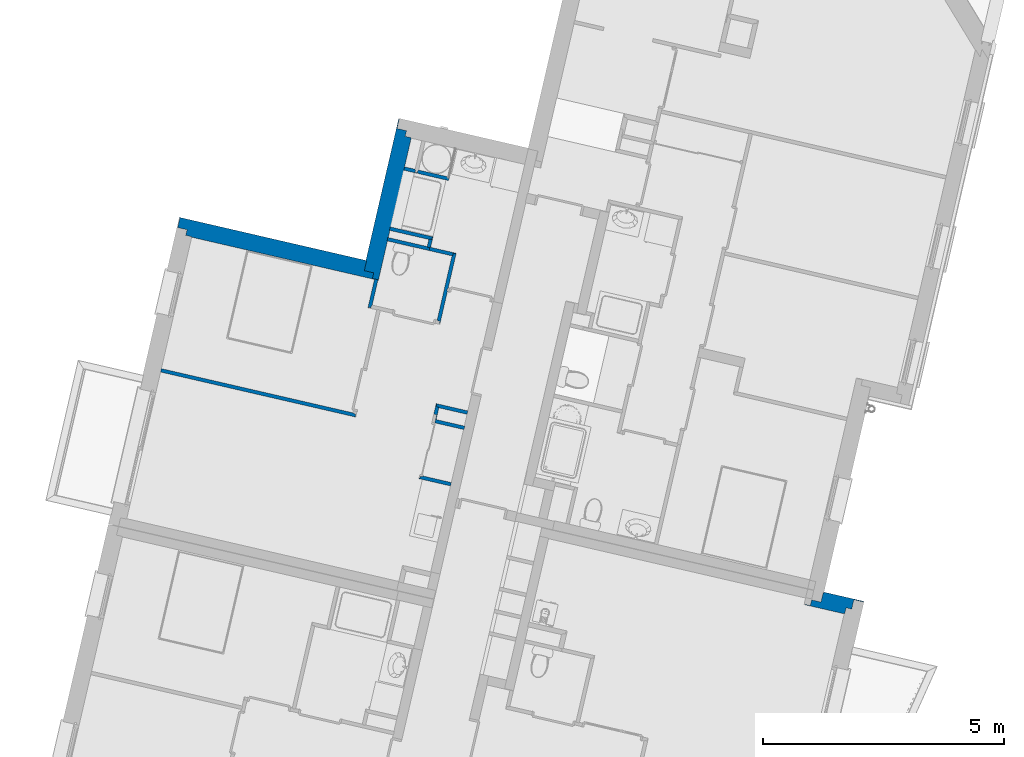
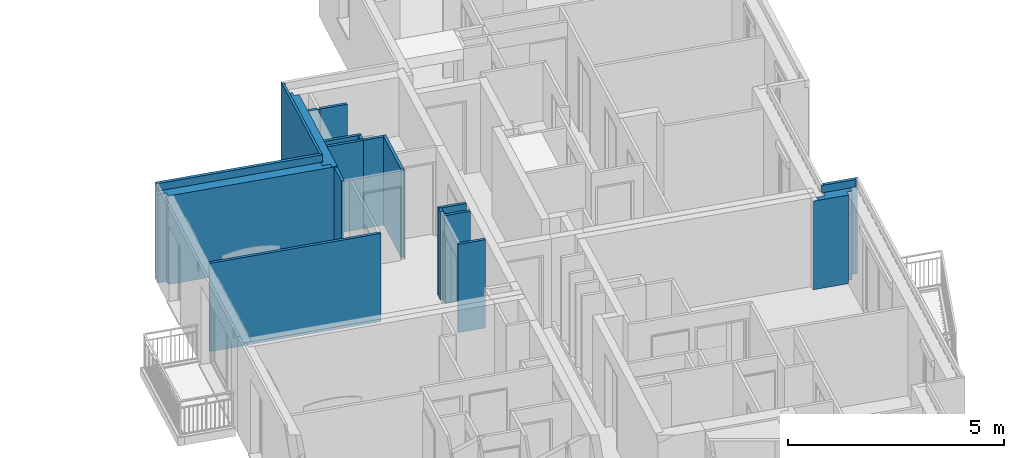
# One storey, part 46 of 91: 16 walls.
"""IFC2X3 building model written with IfcOpenShell, lengths in metres."""

from ifc_helpers import new_model, entity, si_unit, converted_unit, derived_unit, money_unit, direction, frame, origin_with_axes, place, context, subcontext, project, spatial, faceted_brep, material, material_list, type_object, element, save


model = new_model("IFC2X3")

# Units and contexts
model_context = context("Model", 3, precision=1e-05, world=origin_with_axes(), true_north=direction((0.0, 1.0)))
body_context = subcontext(model_context, "Body", "Model", "MODEL_VIEW")
ifc_project = project(units=[si_unit("LENGTHUNIT", "METRE"), si_unit("AREAUNIT", "SQUARE_METRE"), si_unit("VOLUMEUNIT", "CUBIC_METRE"), converted_unit("PLANEANGLEUNIT", "DEGREE", entity("IfcPlaneAngleMeasure", 0.0174532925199), si_unit("PLANEANGLEUNIT", "RADIAN"), dimensions=[0, 0, 0, 0, 0, 0, 0]), si_unit("SOLIDANGLEUNIT", "STERADIAN"), money_unit("EUR"), converted_unit("TIMEUNIT", "Year", entity("IfcTimeMeasure", 31556926.0), si_unit("TIMEUNIT", "SECOND"), dimensions=[0, 0, 1, 0, 0, 0, 0]), si_unit("MASSUNIT", "GRAM", prefix="KILO"), si_unit("THERMODYNAMICTEMPERATUREUNIT", "DEGREE_CELSIUS"), si_unit("LUMINOUSINTENSITYUNIT", "LUMEN"), si_unit("ENERGYUNIT", "JOULE", prefix="MEGA"), derived_unit("THERMALCONDUCTANCEUNIT", [(si_unit("POWERUNIT", "WATT"), 1), (si_unit("LENGTHUNIT", "METRE"), -1), (si_unit("THERMODYNAMICTEMPERATUREUNIT", "KELVIN"), -1)]), derived_unit("SPECIFICHEATCAPACITYUNIT", [(si_unit("ENERGYUNIT", "JOULE"), 1), (si_unit("MASSUNIT", "GRAM", prefix="KILO"), -1), (si_unit("THERMODYNAMICTEMPERATUREUNIT", "KELVIN"), -1)]), derived_unit("MASSDENSITYUNIT", [(si_unit("MASSUNIT", "GRAM", prefix="KILO"), 1), (si_unit("VOLUMEUNIT", "CUBIC_METRE"), -1)])], contexts=[model_context])

# Site, building, storey
site_placement = place(None, origin_with_axes())
site = spatial("IfcSite", under=ifc_project, at=site_placement, Name="Site", CompositionType="ELEMENT")
building_placement = place(site_placement, origin_with_axes())
building = spatial("IfcBuilding", under=site, at=building_placement, Name="Bâtiment", CompositionType="ELEMENT")
storey_placement = place(building_placement, frame((0.0, 0.0, 5.44), z_axis=(0.0, 0.0, 1.0), x_axis=(1.0, 0.0, 0.0)))
storey = spatial("IfcBuildingStorey", under=building, at=storey_placement, Name="R+2", CompositionType="ELEMENT", Elevation=5.44)

# Walls
ifc_material_1 = material(Name="Finition int - Plaque de plâtre")
ifc_material_2 = material(Name="Isolation - Polystyrène extrudé")
ifc_material_3 = material(Name="Bloc ELITHERM")
ifc_material_4 = material(Name="Isolation - Polystyrène expansé")
ifc_material_5 = material(Name="Mortier")
ifc_material_6 = material(Name="Béton cellulaire")
ifc_material_7 = material(Name="Finition ext - Crépis")
ifc_material_list_1 = material_list([ifc_material_1, ifc_material_2, ifc_material_3, ifc_material_4, ifc_material_5, ifc_material_6, ifc_material_7])
wall_type_1 = type_object("IfcWallType", Name="Mur ALKERN + planelle 21 345 x 2720", PredefinedType="USERDEFINED")
wall_1_placement = place(storey_placement, frame((-11.5686771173, 9.47242626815, 0.0), z_axis=(0.0, 0.0, 1.0), x_axis=(-0.974387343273, 0.224876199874, 0.0)))
element("IfcWall", 1, at=wall_1_placement, inside=storey, type_object=wall_type_1, material=ifc_material_list_1, Name="Mue bloc ALKERN isolé", ObjectType="SOLIDWALL", context=body_context, shape_type="Brep", body=[
    faceted_brep([(-0.335000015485, 0.335000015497, 0.0), (3.64499998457, 0.335000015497, 0.0), (3.64499998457, 0.335000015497, 2.51), (-0.335000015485, 0.335000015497, 2.51), (-0.335000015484, 0.34499998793, 0.0), (3.64499998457, 0.34499998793, 0.0), (3.64499998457, 0.34499998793, 2.51), (-0.335000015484, 0.34499998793, 2.51)], [[[0, 1, 2, 3]], [[4, 5, 1, 0]], [[5, 6, 2, 1]], [[3, 2, 6, 7]], [[4, 0, 3, 7]], [[7, 6, 5, 4]]]),
    faceted_brep([(-0.215000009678, 0.215000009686, 0.0), (3.765000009, 0.215000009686, 0.0), (3.765000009, 0.215000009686, 2.50999999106), (-0.215000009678, 0.215000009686, 2.51), (-0.215000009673, 0.335000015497, 0.0), (3.76500000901, 0.335000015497, 0.0), (3.76500000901, 0.335000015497, 2.50999999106), (-0.215000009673, 0.335000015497, 2.51)], [[[0, 1, 2, 3]], [[4, 5, 1, 0]], [[5, 6, 2, 1]], [[3, 2, 6, 7]], [[4, 0, 3, 7]], [[7, 6, 5, 4]]]),
    faceted_brep([(3.96500001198, 0.015, 0.0), (3.96500001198, 0.015, 2.50999999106), (-0.0149999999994, 0.015, 2.50999999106), (-0.0149999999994, 0.015, 0.0), (3.96500001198, 0.0829999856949, 2.50999999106), (3.96500001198, 0.214999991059, 0.0), (3.96500001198, 0.214999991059, 2.50999999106), (-0.0149999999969, 0.0829999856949, 2.50999999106), (-0.014999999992, 0.214999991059, 2.50999999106), (-0.014999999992, 0.214999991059, 0.0)], [[[0, 1, 2, 3]], [[4, 1, 0, 5, 6]], [[1, 4, 7, 2]], [[3, 2, 7, 8, 9]], [[5, 0, 3, 9]], [[6, 5, 9, 8]], [[4, 6, 8, 7]]]),
    faceted_brep([(-0.0610966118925, 0.083000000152, 2.72), (-0.0610966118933, 0.0630000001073, 2.72), (3.91700000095, 0.0630000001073, 2.72), (3.91700000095, 0.083000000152, 2.72), (-0.0610966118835, 0.0630000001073, 2.51999999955), (-0.061096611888, 0.083000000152, 2.51999999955), (3.91700000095, 0.0630000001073, 2.51999999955), (3.91700000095, 0.083000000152, 2.51999999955)], [[[0, 1, 2, 3]], [[4, 1, 0, 5]], [[1, 4, 6, 2]], [[7, 3, 2, 6]], [[5, 0, 3, 7]], [[4, 5, 7, 6]]]),
    faceted_brep([(3.96500001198, 0.015, 2.50999999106), (3.96500001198, 0.015, 2.51999999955), (-0.0149999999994, 0.015, 2.52), (-0.0149999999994, 0.015, 2.51), (3.96500001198, 0.083, 2.51999999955), (3.96500001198, 0.083, 2.50999999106), (-0.0149999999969, 0.083, 2.52), (-0.0149999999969, 0.083, 2.51)], [[[0, 1, 2, 3]], [[4, 1, 0, 5]], [[1, 4, 6, 2]], [[3, 2, 6, 7]], [[5, 0, 3, 7]], [[4, 5, 7, 6]]]),
    faceted_brep([(3.96500001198, 0.015, 2.51999999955), (3.96500001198, 0.015, 2.72), (-0.0149999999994, 0.015, 2.72), (-0.0149999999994, 0.015, 2.51999999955), (3.96500001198, 0.0629999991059, 2.72), (3.96500001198, 0.0629999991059, 2.51999999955), (-0.0149999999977, 0.0629999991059, 2.72), (-0.0149999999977, 0.0629999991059, 2.51999999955)], [[[0, 1, 2, 3]], [[4, 1, 0, 5]], [[1, 4, 6, 2]], [[3, 2, 6, 7]], [[5, 0, 3, 7]], [[4, 5, 7, 6]]]),
    faceted_brep([(3.97999998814, 0.0149999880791, 2.72), (0.0, 0.0149999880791, 2.72), (0.0, 0.0, 2.72), (3.97999998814, 0.0, 2.72), (0.0, 0.0149999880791, 0.0), (3.97999998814, 0.0149999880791, 0.0), (0.0, 0.0, 0.0), (3.97999998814, 0.0, 0.0)], [[[0, 1, 2, 3]], [[4, 1, 0, 5]], [[6, 2, 1, 4]], [[3, 2, 6, 7]], [[7, 5, 0, 3]], [[7, 6, 4, 5]]]),
])
wall_2_placement = place(storey_placement, frame((-10.8873022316, 12.4248199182, 0.0), z_axis=(0.0, 0.0, 1.0), x_axis=(-0.22487619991, -0.974387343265, 0.0)))
element("IfcWall", 2, at=wall_2_placement, inside=storey, type_object=wall_type_1, material=ifc_material_list_1, Name="Mue bloc ALKERN isolé", ObjectType="SOLIDWALL", context=body_context, shape_type="Brep", body=[
    faceted_brep([(3.3749999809, 0.335000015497, 2.51000000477), (0.34499998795, 0.335000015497, 2.51), (0.34499998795, 0.335000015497, 0.0), (3.3749999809, 0.335000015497, 0.0), (2.23900000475, 0.335, 2.2), (1.02900000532, 0.335, 2.2), (1.02900000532, 0.335, 2.5), (2.23900000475, 0.335, 2.5), (3.3749999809, 0.34499998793, 2.51000000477), (0.34499998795, 0.34499998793, 2.51), (0.34499998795, 0.34499998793, 0.0), (3.3749999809, 0.34499998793, 0.0), (2.23900000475, 0.34499998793, 2.2), (1.02900000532, 0.34499998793, 2.2), (1.02900000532, 0.34499998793, 2.5), (2.23900000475, 0.34499998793, 2.5)], [[[0, 1, 2, 3], [4, 5, 6, 7]], [[8, 9, 1, 0]], [[2, 1, 9, 10]], [[3, 2, 10, 11]], [[0, 3, 11, 8]], [[12, 13, 5, 4]], [[13, 14, 6, 5]], [[14, 15, 7, 6]], [[15, 12, 4, 7]], [[11, 10, 9, 8], [12, 15, 14, 13]]]),
    faceted_brep([(0.33500001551, 0.215000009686, 2.51), (3.36500001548, 0.215000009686, 2.51), (3.36500001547, 0.335000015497, 2.51), (0.335000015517, 0.335000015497, 2.51), (0.33500001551, 0.215000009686, 0.0), (3.36500001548, 0.215000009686, 0.0), (3.36500001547, 0.335000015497, 0.0), (0.335000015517, 0.335000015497, 0.0)], [[[0, 1, 2, 3]], [[4, 5, 1, 0]], [[5, 6, 2, 1]], [[3, 2, 6, 7]], [[4, 0, 3, 7]], [[7, 6, 5, 4]]]),
    faceted_brep([(3.24500000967, 0.0829999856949, 2.51), (3.24500000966, 0.214999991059, 2.51), (0.214999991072, 0.214999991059, 2.50999999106), (0.214999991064, 0.0829999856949, 2.50999999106), (3.24500000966, 0.214999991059, 0.0), (3.24500000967, 0.015, 2.51), (3.24500000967, 0.015, 0.0), (0.214999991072, 0.214999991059, 0.0), (0.21499999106, 0.015, 0.0), (0.21499999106, 0.015, 2.50999999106)], [[[0, 1, 2, 3]], [[4, 1, 0, 5, 6]], [[1, 4, 7, 2]], [[3, 2, 7, 8, 9]], [[5, 0, 3, 9]], [[6, 5, 9, 8]], [[4, 6, 8, 7]]]),
    faceted_brep([(0.0999380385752, 0.0629999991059, 2.72), (0.0999380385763, 0.083000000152, 2.72), (0.0830000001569, 0.083000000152, 2.72), (0.0830000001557, 0.0630000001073, 2.72), (0.0999380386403, 0.083, 2.51999999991), (0.0999380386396, 0.0629999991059, 2.51999999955), (0.0830000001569, 0.083000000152, 2.51999999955), (0.0830000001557, 0.0630000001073, 2.51999999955)], [[[0, 1, 2, 3]], [[4, 1, 0, 5]], [[1, 4, 6, 2]], [[7, 3, 2, 6]], [[5, 0, 3, 7]], [[4, 5, 7, 6]]]),
    faceted_brep([(0.0830000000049, 0.083, 2.51), (0.0830000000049, 0.083, 2.52), (3.11299999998, 0.083, 2.51999998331), (3.11299999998, 0.083, 2.51000000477), (0.0830000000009, 0.015, 2.52), (0.0830000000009, 0.015, 2.51), (3.11299999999, 0.015, 2.51999998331), (3.11299999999, 0.015, 2.51000000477)], [[[0, 1, 2, 3]], [[4, 1, 0, 5]], [[1, 4, 6, 2]], [[7, 3, 2, 6]], [[5, 0, 3, 7]], [[4, 5, 7, 6]]]),
    faceted_brep([(3.09300000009, 0.015, 2.72), (3.09300000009, 0.0629999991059, 2.72), (0.0629999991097, 0.0629999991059, 2.72), (0.0629999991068, 0.015, 2.72), (3.09300000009, 0.0629999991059, 2.51999999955), (3.09300000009, 0.015, 2.51999999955), (0.0629999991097, 0.0629999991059, 2.51999999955), (0.0629999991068, 0.015, 2.51999999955)], [[[0, 1, 2, 3]], [[4, 1, 0, 5]], [[1, 4, 6, 2]], [[3, 2, 6, 7]], [[5, 0, 3, 7]], [[4, 5, 7, 6]]]),
    faceted_brep([(0.0149999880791, 0.0, 2.72), (3.04499999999, 0.0, 2.72), (3.04499999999, 0.0149999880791, 2.72), (0.0149999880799, 0.0149999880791, 2.72), (3.04499999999, 0.0, 0.0), (0.0149999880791, 0.0, 0.0), (3.04499999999, 0.0149999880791, 0.0), (0.0149999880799, 0.0149999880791, 0.0)], [[[0, 1, 2, 3]], [[4, 1, 0, 5]], [[6, 2, 1, 4]], [[3, 2, 6, 7]], [[5, 0, 3, 7]], [[7, 6, 4, 5]]]),
])
ifc_material_list_2 = material_list([ifc_material_7, ifc_material_6, ifc_material_5, ifc_material_4, ifc_material_3, ifc_material_2, ifc_material_1])
wall_3_placement = place(storey_placement, frame((-2.05459086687, 2.58202620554, 0.0), z_axis=(0.0, 0.0, 1.0), x_axis=(0.974387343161, -0.224876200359, 0.0)))
element("IfcWall", 3, at=wall_3_placement, inside=storey, type_object=wall_type_1, material=ifc_material_list_2, Name="Mue bloc ALKERN isolé", ObjectType="SOLIDWALL", context=body_context, shape_type="Brep", body=[
    faceted_brep([(0.0, -0.0149999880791, 2.72), (0.84080868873, -0.0149999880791, 2.72), (0.840808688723, 0.0, 2.72), (0.0, 0.0, 2.72), (0.84080868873, -0.0149999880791, 0.0), (0.0, -0.0149999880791, 0.0), (0.840808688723, 0.0, 0.0), (0.0, 0.0, 0.0)], [[[0, 1, 2, 3]], [[4, 1, 0, 5]], [[6, 2, 1, 4]], [[3, 2, 6, 7]], [[5, 0, 3, 7]], [[7, 6, 4, 5]]]),
    faceted_brep([(0.792808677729, -0.0629999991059, 2.72), (0.792808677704, -0.015, 2.72), (-0.0149999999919, -0.015, 2.72), (-0.0149999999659, -0.0629999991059, 2.72), (0.792808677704, -0.015, 2.51999999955), (0.792808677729, -0.0629999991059, 2.51999999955), (-0.0149999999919, -0.015, 2.51999999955), (-0.0149999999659, -0.0629999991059, 2.51999999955)], [[[0, 1, 2, 3]], [[4, 1, 0, 5]], [[1, 4, 6, 2]], [[3, 2, 6, 7]], [[5, 0, 3, 7]], [[4, 5, 7, 6]]]),
    faceted_brep([(0.772808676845, -0.083, 2.52), (0.77280867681, -0.015, 2.52), (-0.0149999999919, -0.015, 2.52), (-0.0149999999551, -0.083, 2.52), (0.77280867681, -0.015, 2.51), (0.772808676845, -0.083, 2.51), (-0.0149999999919, -0.015, 2.51), (-0.0149999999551, -0.083, 2.51)], [[[0, 1, 2, 3]], [[4, 1, 0, 5]], [[1, 4, 6, 2]], [[3, 2, 6, 7]], [[5, 0, 3, 7]], [[4, 5, 7, 6]]]),
    faceted_brep([(-0.0630000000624, -0.083000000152, 2.72), (0.772808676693, -0.083000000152, 2.72), (0.772808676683, -0.0630000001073, 2.72), (-0.0630000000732, -0.0630000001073, 2.72), (-0.0630000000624, -0.083000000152, 2.51999999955), (0.772808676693, -0.083000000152, 2.51999999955), (0.772808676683, -0.0630000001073, 2.51999999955), (-0.0630000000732, -0.0630000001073, 2.51999999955)], [[[0, 1, 2, 3]], [[4, 5, 1, 0]], [[5, 6, 2, 1]], [[3, 2, 6, 7]], [[4, 0, 3, 7]], [[7, 6, 5, 4]]]),
    faceted_brep([(0.640808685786, -0.0829999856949, 2.50999999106), (0.64080868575, -0.015, 2.50999999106), (-0.0149999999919, -0.015, 2.50999999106), (-0.0149999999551, -0.0829999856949, 2.50999999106), (0.64080868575, -0.015, 0.0), (0.640808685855, -0.214999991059, 2.50999999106), (0.640808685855, -0.214999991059, 0.0), (-0.0149999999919, -0.015, 0.0), (-0.0149999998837, -0.214999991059, 0.0), (-0.0149999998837, -0.214999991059, 2.50999999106)], [[[0, 1, 2, 3]], [[4, 1, 0, 5, 6]], [[1, 4, 7, 2]], [[3, 2, 7, 8, 9]], [[5, 0, 3, 9]], [[6, 5, 9, 8]], [[4, 6, 8, 7]]]),
    faceted_brep([(-0.215000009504, -0.335000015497, 2.51), (0.520808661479, -0.335000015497, 2.51), (0.520808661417, -0.215000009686, 2.51), (-0.215000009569, -0.215000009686, 2.51), (-0.215000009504, -0.335000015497, 0.0), (0.520808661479, -0.335000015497, 0.0), (0.520808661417, -0.215000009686, 0.0), (-0.215000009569, -0.215000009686, 0.0)], [[[0, 1, 2, 3]], [[4, 5, 1, 0]], [[5, 6, 2, 1]], [[3, 2, 6, 7]], [[4, 0, 3, 7]], [[7, 6, 5, 4]]]),
    faceted_brep([(-0.335000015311, -0.34499998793, 2.51), (0.510808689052, -0.34499998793, 2.51), (0.510808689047, -0.335000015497, 2.51), (-0.335000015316, -0.335000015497, 2.51), (-0.335000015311, -0.34499998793, 0.0), (0.510808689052, -0.34499998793, 0.0), (0.510808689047, -0.335000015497, 0.0), (-0.335000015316, -0.335000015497, 0.0)], [[[0, 1, 2, 3]], [[4, 5, 1, 0]], [[5, 6, 2, 1]], [[3, 2, 6, 7]], [[4, 0, 3, 7]], [[7, 6, 5, 4]]]),
])
ifc_material_8 = material(Name="Isolation - Laine de roche")
ifc_material_list_3 = material_list([ifc_material_1, ifc_material_8, ifc_material_1])
wall_type_2 = type_object("IfcWallType", Name="3 - Cloison 72mm Placostil 74", PredefinedType="USERDEFINED")
wall_4_placement = place(storey_placement, frame((-9.85394506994, 11.1302860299, 0.0), z_axis=(0.0, 0.0, 1.0), x_axis=(-0.974387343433, 0.224876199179, 0.0)))
element("IfcWall", 4, at=wall_4_placement, inside=storey, type_object=wall_type_2, material=ifc_material_list_3, Name="Cloison Placostil 72/48", ObjectType="PARTITIONING", context=body_context, shape_type="Brep", body=[
    faceted_brep([(0.0, -0.013, 0.0), (0.654000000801, -0.013, 0.0), (0.654000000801, -0.0130000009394, 2.5), (0.0, -0.0130000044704, 2.5), (0.0, 0.0, 0.0), (0.654000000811, 0.0, 0.0), (0.654000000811, 0.0, 2.5), (0.0, 4.47035475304e-09, 2.5), (0.0, 4.47035475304e-09, 1.0)], [[[0, 1, 2, 3]], [[4, 5, 1, 0]], [[5, 6, 2, 1]], [[3, 2, 6, 7]], [[4, 0, 3, 7, 8]], [[7, 6, 5, 4, 8]]]),
    faceted_brep([(0.0, -0.061, 0.0), (0.667000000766, -0.061, 0.0), (0.667000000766, -0.0609999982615, 2.5), (0.0, -0.0609999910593, 2.5), (0.0, -0.013, 0.0), (0.667000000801, -0.0129999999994, 0.0), (0.667000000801, -0.0129999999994, 2.5), (0.0, -0.0130000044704, 2.5)], [[[0, 1, 2, 3]], [[4, 5, 1, 0]], [[5, 6, 2, 1]], [[3, 2, 6, 7]], [[4, 0, 3, 7]], [[7, 6, 5, 4]]]),
    faceted_brep([(0.0, -0.0609999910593, 2.5), (0.0, -0.0609999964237, 1.0), (0.0, -0.074, 1.0), (0.0, -0.074, 2.5), (0.0199999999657, -0.061, 0.0), (0.0199999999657, -0.0609999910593, 1.0), (0.654000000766, -0.0609999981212, 2.5), (0.654000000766, -0.061, 0.0), (0.0199999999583, -0.074, 1.0), (0.0199999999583, -0.074, 0.0), (0.654000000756, -0.074, 0.0), (0.654000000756, -0.074, 2.5)], [[[0, 1, 2, 3]], [[4, 5, 1, 0, 6, 7]], [[5, 8, 2, 1]], [[2, 8, 9, 10, 11, 3]], [[3, 11, 6, 0]], [[4, 9, 8, 5]], [[7, 6, 11, 10]], [[10, 9, 4, 7]]]),
])
wall_5_placement = place(storey_placement, frame((-10.108684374, 6.4987370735, 0.0), z_axis=(0.0, 0.0, 1.0), x_axis=(-0.22487619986, -0.974387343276, 0.0)))
element("IfcWall", 5, at=wall_5_placement, inside=storey, type_object=wall_type_2, material=ifc_material_list_3, Name="Cloison Placostil 72/48", ObjectType="PARTITIONING", context=body_context, shape_type="Brep", body=[
    faceted_brep([(0.0739999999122, 0.074, 0.0), (0.337000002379, 0.074, 0.0), (0.33700000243, 0.061, 0.0), (0.0739999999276, 0.061, 0.0), (0.0739999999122, 0.074, 2.5), (0.337000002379, 0.074, 2.5), (0.33700000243, 0.061, 2.5), (0.0739999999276, 0.061, 2.5)], [[[0, 1, 2, 3]], [[4, 5, 1, 0]], [[6, 2, 1, 5]], [[3, 2, 6, 7]], [[7, 4, 0, 3]], [[7, 6, 5, 4]]]),
    faceted_brep([(0.0609999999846, 0.013, 2.5), (0.224000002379, 0.013, 2.5), (0.224000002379, 0.061, 2.5), (0.0609999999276, 0.061, 2.5), (0.0609999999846, 0.013, 0.0), (0.224000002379, 0.013, 0.0), (0.224000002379, 0.061, 0.0), (0.0609999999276, 0.061, 0.0)], [[[0, 1, 2, 3]], [[4, 5, 1, 0]], [[5, 6, 2, 1]], [[3, 2, 6, 7]], [[0, 3, 7, 4]], [[7, 6, 5, 4]]]),
    faceted_brep([(0.013, 0.0, 2.5), (0.224000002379, 0.0, 2.5), (0.224000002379, 0.013, 2.5), (0.0129999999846, 0.013, 2.5), (0.013, 0.0, 0.0), (0.224000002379, 0.0, 0.0), (0.224000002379, 0.013, 0.0), (0.0129999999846, 0.013, 0.0)], [[[0, 1, 2, 3]], [[4, 5, 1, 0]], [[5, 6, 2, 1]], [[3, 2, 6, 7]], [[0, 3, 7, 4]], [[7, 6, 5, 4]]]),
])
wall_6_placement = place(storey_placement, frame((-9.69303099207, 9.6218678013, 0.0), z_axis=(0.0, 0.0, 1.0), x_axis=(-0.224876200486, -0.974387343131, 0.0)))
element("IfcWall", 6, at=wall_6_placement, inside=storey, type_object=wall_type_2, material=ifc_material_list_3, Name="Cloison Placostil 72/48", ObjectType="PARTITIONING", context=body_context, shape_type="Brep", body=[
    faceted_brep([(0.756000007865, -0.013, 2.5), (0.75600000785, 0.0, 2.5), (0.0, 0.0, 2.5), (1.65902847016e-10, -0.013, 2.5), (0.756000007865, -0.013, 0.0), (0.75600000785, 0.0, 0.0), (0.0, 0.0, 0.0), (1.65902847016e-10, -0.013, 0.0)], [[[0, 1, 2, 3]], [[1, 0, 4, 5]], [[1, 5, 6, 2]], [[7, 3, 2, 6]], [[4, 0, 3, 7]], [[5, 4, 7, 6]]]),
    faceted_brep([(1.50400001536, -0.013, 2.5), (1.50400001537, 0.0, 2.5), (0.80400000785, 0.0, 2.5), (0.804000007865, -0.013, 2.5), (1.50400001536, -0.013, 0.0), (1.50400001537, 0.0, 0.0), (0.80400000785, 0.0, 0.0), (0.804000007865, -0.013, 0.0)], [[[0, 1, 2, 3]], [[1, 0, 4, 5]], [[1, 5, 6, 2]], [[7, 3, 2, 6]], [[4, 0, 3, 7]], [[5, 4, 7, 6]]]),
    faceted_brep([(1.45600001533, -0.061, 2.5), (1.45600001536, -0.013, 2.5), (0.0130000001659, -0.013, 2.5), (0.0130000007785, -0.061, 2.5), (1.45600001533, -0.061, 0.0), (1.45600001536, -0.013, 0.0), (0.0130000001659, -0.013, 0.0), (0.0130000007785, -0.061, 0.0)], [[[0, 1, 2, 3]], [[1, 0, 4, 5]], [[1, 5, 6, 2]], [[7, 3, 2, 6]], [[4, 0, 3, 7]], [[5, 4, 7, 6]]]),
    faceted_brep([(1.44300001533, -0.074, 2.5), (1.44300001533, -0.061, 2.5), (0.0610000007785, -0.061, 2.5), (0.0610000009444, -0.074, 2.5), (1.44300001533, -0.074, 0.0), (1.44300001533, -0.061, 0.0), (0.0610000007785, -0.061, 0.0), (0.0610000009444, -0.074, 0.0)], [[[0, 1, 2, 3]], [[1, 0, 4, 5]], [[1, 5, 6, 2]], [[7, 3, 2, 6]], [[4, 0, 3, 7]], [[5, 4, 7, 6]]]),
])
wall_7_placement = place(storey_placement, frame((-10.2396622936, 9.74802334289, 0.0), z_axis=(0.0, 0.0, 1.0), x_axis=(0.974387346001, -0.224876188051, 0.0)))
element("IfcWall", 7, at=wall_7_placement, inside=storey, type_object=wall_type_2, material=ifc_material_list_3, Name="Cloison Placostil 72/48", ObjectType="PARTITIONING", context=body_context, shape_type="Brep", body=[
    faceted_brep([(0.548000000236, -0.013, 2.5), (0.548000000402, 0.0, 2.5), (0.0020000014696, 0.0, 2.5), (0.00200000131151, -0.013, 2.5), (0.548000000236, -0.013, 0.0), (0.548000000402, 0.0, 0.0), (0.0020000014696, 0.0, 0.0), (0.00200000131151, -0.013, 0.0)], [[[0, 1, 2, 3]], [[1, 0, 4, 5]], [[1, 5, 6, 2]], [[7, 3, 2, 6]], [[4, 0, 3, 7]], [[5, 4, 7, 6]]]),
    faceted_brep([(0.499999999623, -0.061, 2.5), (0.500000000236, -0.013, 2.5), (0.0, -0.013, 2.5), (0.0, -0.061, 2.5), (0.499999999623, -0.061, 0.0), (0.500000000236, -0.013, 0.0), (0.0, -0.013, 0.0), (0.0, -0.061, 0.0)], [[[0, 1, 2, 3]], [[1, 0, 4, 5]], [[1, 5, 6, 2]], [[7, 3, 2, 6]], [[4, 0, 3, 7]], [[5, 4, 7, 6]]]),
    faceted_brep([(0.486999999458, -0.074, 2.5), (0.486999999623, -0.061, 2.5), (0.0, -0.061, 2.5), (0.0, -0.074, 2.5), (0.486999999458, -0.074, 0.0), (0.486999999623, -0.061, 0.0), (0.0, -0.061, 0.0), (0.0, -0.074, 0.0)], [[[0, 1, 2, 3]], [[1, 0, 4, 5]], [[1, 5, 6, 2]], [[7, 3, 2, 6]], [[4, 0, 3, 7]], [[5, 4, 7, 6]]]),
])
wall_8_placement = place(storey_placement, frame((-9.53170416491, 5.95711559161, 0.0), z_axis=(0.0, 0.0, 1.0), x_axis=(-0.974387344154, 0.224876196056, 0.0)))
element("IfcWall", 8, at=wall_8_placement, inside=storey, type_object=wall_type_2, material=ifc_material_list_3, Name="Cloison Placostil 72/48", ObjectType="PARTITIONING", context=body_context, shape_type="Brep", body=[
    faceted_brep([(0.0, -0.013, 0.0), (0.622999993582, -0.013, 0.0), (0.622999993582, -0.013, 2.5), (0.0, -0.013, 2.5), (0.0, 0.0, 0.0), (0.622999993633, 0.0, 0.0), (0.622999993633, 0.0, 2.5), (0.0, 0.0, 2.5)], [[[0, 1, 2, 3]], [[4, 5, 1, 0]], [[5, 6, 2, 1]], [[3, 2, 6, 7]], [[4, 0, 3, 7]], [[7, 6, 5, 4]]]),
    faceted_brep([(-2.37522002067e-10, -0.061, 2.5), (0.622999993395, -0.061, 2.5), (0.622999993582, -0.013, 2.5), (0.0, -0.013, 2.5), (-2.37522002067e-10, -0.061, 0.0), (0.622999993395, -0.061, 0.0), (0.622999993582, -0.013, 0.0), (0.0, -0.013, 0.0)], [[[0, 1, 2, 3]], [[4, 5, 1, 0]], [[6, 2, 1, 5]], [[3, 2, 6, 7]], [[7, 4, 0, 3]], [[7, 6, 5, 4]]]),
    faceted_brep([(-2.88141066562e-10, -0.074, 2.5), (0.609999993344, -0.074, 2.5), (0.609999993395, -0.061, 2.5), (-2.37522002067e-10, -0.061, 2.5), (-2.88141066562e-10, -0.074, 0.0), (0.609999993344, -0.074, 0.0), (0.609999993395, -0.061, 0.0), (-2.37522002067e-10, -0.061, 0.0)], [[[0, 1, 2, 3]], [[4, 5, 1, 0]], [[6, 2, 1, 5]], [[3, 2, 6, 7]], [[7, 4, 0, 3]], [[7, 6, 5, 4]]]),
])
wall_9_placement = place(storey_placement, frame((-9.45194730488, 6.34717051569, 0.0), z_axis=(0.0, 0.0, 1.0), x_axis=(-0.974387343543, 0.224876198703, 0.0)))
element("IfcWall", 9, at=wall_9_placement, inside=storey, type_object=wall_type_2, material=ifc_material_list_3, Name="Cloison Placostil 72/48", ObjectType="PARTITIONING", context=body_context, shape_type="Brep", body=[
    faceted_brep([(0.612999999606, 0.074, 0.0), (0.612999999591, 0.061, 0.0), (0.0, 0.061, 0.0), (0.0, 0.074, 0.0), (0.612999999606, 0.074, 2.5), (0.612999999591, 0.061, 2.5), (0.0, 0.061, 2.5), (0.0, 0.074, 2.5)], [[[0, 1, 2, 3]], [[1, 0, 4, 5]], [[1, 5, 6, 2]], [[7, 3, 2, 6]], [[4, 0, 3, 7]], [[5, 4, 7, 6]]]),
    faceted_brep([(0.660999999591, 0.061, 0.0), (0.660999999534, 0.013, 0.0), (0.0, 0.013, 0.0), (0.0, 0.061, 0.0), (0.660999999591, 0.061, 2.5), (0.660999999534, 0.013, 2.5), (0.0, 0.013, 2.5), (0.0, 0.061, 2.5)], [[[0, 1, 2, 3]], [[1, 0, 4, 5]], [[1, 5, 6, 2]], [[7, 3, 2, 6]], [[4, 0, 3, 7]], [[5, 4, 7, 6]]]),
    faceted_brep([(0.673999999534, 0.013, 0.0), (0.673999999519, 0.0, 0.0), (0.0, 0.0, 0.0), (0.0, 0.013, 0.0), (0.673999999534, 0.013, 2.5), (0.673999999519, 0.0, 2.5), (0.0, 0.0, 2.5), (0.0, 0.013, 2.5)], [[[0, 1, 2, 3]], [[1, 0, 4, 5]], [[1, 5, 6, 2]], [[7, 3, 2, 6]], [[4, 0, 3, 7]], [[5, 4, 7, 6]]]),
])
wall_10_placement = place(storey_placement, frame((-11.3896955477, 9.08731381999, 0.0), z_axis=(0.0, 0.0, 1.0), x_axis=(-0.224876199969, -0.974387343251, 0.0)))
element("IfcWall", 10, at=wall_10_placement, inside=storey, type_object=wall_type_2, material=ifc_material_list_3, Name="Cloison Placostil 72/48", ObjectType="PARTITIONING", context=body_context, shape_type="Brep", body=[
    faceted_brep([(0.55359790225, 0.074, 0.0), (0.553597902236, 0.061, 0.0), (0.0, 0.061, 0.0), (0.0, 0.074, 0.0), (0.55359790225, 0.074, 2.5), (0.553597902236, 0.061, 2.5), (0.0, 0.061, 2.5), (0.0, 0.074, 2.5)], [[[0, 1, 2, 3]], [[1, 0, 4, 5]], [[1, 5, 6, 2]], [[7, 3, 2, 6]], [[4, 0, 3, 7]], [[5, 4, 7, 6]]]),
    faceted_brep([(0.601597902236, 0.061, 0.0), (0.601597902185, 0.013, 0.0), (0.0, 0.013, 0.0), (0.0, 0.061, 0.0), (0.601597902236, 0.061, 2.5), (0.601597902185, 0.013, 2.5), (0.0, 0.013, 2.5), (0.0, 0.061, 2.5)], [[[0, 1, 2, 3]], [[1, 0, 4, 5]], [[1, 5, 6, 2]], [[7, 3, 2, 6]], [[4, 0, 3, 7]], [[5, 4, 7, 6]]]),
    faceted_brep([(0.614597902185, 0.013, 0.0), (0.614597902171, 0.0, 0.0), (0.0, 0.0, 0.0), (0.0, 0.013, 0.0), (0.614597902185, 0.013, 2.5), (0.614597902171, 0.0, 2.5), (0.0, 0.0, 2.5), (0.0, 0.013, 2.5)], [[[0, 1, 2, 3]], [[1, 0, 4, 5]], [[1, 5, 6, 2]], [[7, 3, 2, 6]], [[4, 0, 3, 7]], [[5, 4, 7, 6]]]),
])
wall_11_placement = place(storey_placement, frame((-11.781974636, 6.21803828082, 0.0), z_axis=(0.0, 0.0, 1.0), x_axis=(-0.974387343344, 0.224876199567, 0.0)))
element("IfcWall", 11, at=wall_11_placement, inside=storey, type_object=wall_type_2, material=ifc_material_list_3, Name="Cloison Placostil 72/48", ObjectType="PARTITIONING", context=body_context, shape_type="Brep", body=[
    faceted_brep([(0.0, -0.013, 2.5), (4.15900001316, -0.013, 2.5), (4.15900001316, 0.0, 2.5), (0.0, 0.0, 2.5), (0.0, -0.013, 0.0), (4.15900001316, -0.013, 0.0), (4.15900001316, 0.0, 0.0), (0.0, 0.0, 0.0)], [[[0, 1, 2, 3]], [[4, 5, 1, 0]], [[2, 1, 5, 6]], [[3, 2, 6, 7]], [[4, 0, 3, 7]], [[7, 6, 5, 4]]]),
    faceted_brep([(0.0129999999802, -0.061, 2.5), (4.15900001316, -0.061, 2.5), (4.15900001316, -0.013, 2.5), (0.0129999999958, -0.013, 2.5), (0.0129999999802, -0.061, 0.0), (4.15900001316, -0.061, 0.0), (4.15900001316, -0.013, 0.0), (0.0129999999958, -0.013, 0.0)], [[[0, 1, 2, 3]], [[4, 5, 1, 0]], [[2, 1, 5, 6]], [[3, 2, 6, 7]], [[4, 0, 3, 7]], [[7, 6, 5, 4]]]),
    faceted_brep([(0.060999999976, -0.074, 2.5), (4.15900001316, -0.074, 2.5), (4.15900001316, -0.061, 2.5), (0.0609999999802, -0.061, 2.5), (0.060999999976, -0.074, 0.0), (4.15900001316, -0.074, 0.0), (4.15900001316, -0.061, 0.0), (0.0609999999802, -0.061, 0.0)], [[[0, 1, 2, 3]], [[4, 5, 1, 0]], [[2, 1, 5, 6]], [[3, 2, 6, 7]], [[4, 0, 3, 7]], [[7, 6, 5, 4]]]),
])
wall_12_placement = place(storey_placement, frame((-9.81196574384, 4.78721261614, 0.0), z_axis=(0.0, 0.0, 1.0), x_axis=(-0.974387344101, 0.224876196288, 0.0)))
element("IfcWall", 12, at=wall_12_placement, inside=storey, type_object=wall_type_2, material=ifc_material_list_3, Name="Cloison Placostil 72/48", ObjectType="PARTITIONING", context=body_context, shape_type="Brep", body=[
    faceted_brep([(0.673999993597, -0.013, 2.5), (0.673999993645, 0.0, 2.5), (0.0, 0.0, 2.5), (0.0, -0.013, 2.5), (0.673999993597, -0.013, 0.0), (0.673999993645, 0.0, 0.0), (0.0, 0.0, 0.0), (0.0, -0.013, 0.0)], [[[0, 1, 2, 3]], [[1, 0, 4, 5]], [[1, 5, 6, 2]], [[7, 3, 2, 6]], [[4, 0, 3, 7]], [[5, 4, 7, 6]]]),
    faceted_brep([(0.612999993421, -0.061, 2.08), (0.660999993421, -0.061, 2.08), (0.660999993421, -0.061, 2.5), (0.0, -0.061, 2.5), (0.0, -0.061, 0.0), (0.61299998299, -0.0610000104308, 0.0), (0.621037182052, -0.0529628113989, 2.08), (0.66099999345, -0.0529628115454, 2.08), (0.66099998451, -0.0529628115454, 0.0), (0.660999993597, -0.013, 0.0), (0.660999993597, -0.013, 2.5), (0.0, -0.013, 2.5), (0.0, -0.013, 0.0), (0.621037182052, -0.0529628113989, 0.0)], [[[0, 1, 2, 3, 4, 5]], [[1, 0, 6, 7]], [[7, 8, 9, 10, 2, 1]], [[3, 2, 10, 11]], [[12, 4, 3, 11]], [[13, 5, 4, 12, 9, 8]], [[0, 5, 13, 6]], [[13, 8, 7, 6]], [[11, 10, 9, 12]]]),
    faceted_brep([(0.600000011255, -0.0739999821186, 2.08), (0.612999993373, -0.074, 2.08), (0.612999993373, -0.074, 2.5), (0.0, -0.074, 2.5), (0.0, -0.074, 0.0), (0.600000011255, -0.0739999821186, 0.0), (0.612999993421, -0.061, 2.08), (0.612999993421, -0.061, 2.5), (0.0, -0.061, 2.5), (0.0, -0.061, 0.0), (0.61299998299, -0.0610000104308, 0.0)], [[[0, 1, 2, 3, 4, 5]], [[1, 0, 6]], [[1, 6, 7, 2]], [[3, 2, 7, 8]], [[9, 4, 3, 8]], [[10, 5, 4, 9]], [[5, 10, 6, 0]], [[6, 10, 9, 8, 7]]]),
])
wall_type_3 = type_object("IfcWallType", Name="3 - Cloison Gaine Technique 72mm 74", PredefinedType="USERDEFINED")
wall_13_placement = place(storey_placement, frame((-10.4911943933, 11.2773550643, 0.0), z_axis=(0.0, 0.0, 1.0), x_axis=(-0.974387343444, 0.224876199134, 0.0)))
element("IfcWall", 13, at=wall_13_placement, inside=storey, type_object=wall_type_3, material=ifc_material_list_3, Name="Cloison Placostil 72/48", ObjectType="PARTITIONING", context=body_context, shape_type="Brep", body=[
    faceted_brep([(0.013, 0.0, 2.5), (0.0129999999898, -0.013, 2.5), (0.299000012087, -0.013, 2.5), (0.299000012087, 0.0, 2.5), (0.013, 0.0, 0.0), (0.0129999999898, -0.013, 0.0), (0.299000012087, -0.013, 0.0), (0.299000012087, 0.0, 0.0)], [[[0, 1, 2, 3]], [[4, 5, 1, 0]], [[1, 5, 6, 2]], [[7, 3, 2, 6]], [[4, 0, 3, 7]], [[5, 4, 7, 6]]]),
    faceted_brep([(0.0609999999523, -0.061, 2.5), (0.299000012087, -0.061, 2.5), (0.299000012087, -0.013, 2.5), (0.0609999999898, -0.013, 2.5), (0.0609999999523, -0.061, 0.0), (0.299000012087, -0.061, 0.0), (0.299000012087, -0.013, 0.0), (0.0609999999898, -0.013, 0.0)], [[[0, 1, 2, 3]], [[4, 5, 1, 0]], [[2, 1, 5, 6]], [[3, 2, 6, 7]], [[4, 0, 3, 7]], [[7, 6, 5, 4]]]),
    faceted_brep([(0.0739999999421, -0.074, 2.5), (0.299000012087, -0.074, 2.5), (0.299000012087, -0.061, 2.5), (0.0739999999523, -0.061, 2.5), (0.0739999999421, -0.074, 0.0), (0.299000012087, -0.074, 0.0), (0.299000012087, -0.061, 0.0), (0.0739999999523, -0.061, 0.0)], [[[0, 1, 2, 3]], [[4, 5, 1, 0]], [[2, 1, 5, 6]], [[3, 2, 6, 7]], [[4, 0, 3, 7]], [[7, 6, 5, 4]]]),
])
wall_14_placement = place(storey_placement, frame((-10.1747646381, 9.96252115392, 0.0), z_axis=(0.0, 0.0, 1.0), x_axis=(-0.224876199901, -0.974387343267, 0.0)))
element("IfcWall", 14, at=wall_14_placement, inside=storey, type_object=wall_type_3, material=ifc_material_list_3, Name="Cloison Placostil 72/48", ObjectType="PARTITIONING", context=body_context, shape_type="Brep", body=[
    faceted_brep([(0.223597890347, -0.013, 2.5), (0.223597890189, 0.0, 2.5), (0.013, 0.0, 2.5), (0.0129999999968, -0.013, 2.5), (0.223597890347, -0.013, 0.0), (0.223597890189, 0.0, 0.0), (0.013, 0.0, 0.0), (0.0129999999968, -0.013, 0.0)], [[[0, 1, 2, 3]], [[1, 0, 4, 5]], [[1, 5, 6, 2]], [[7, 3, 2, 6]], [[4, 0, 3, 7]], [[5, 4, 7, 6]]]),
    faceted_brep([(0.23659789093, -0.061, 2.5), (0.236597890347, -0.013, 2.5), (0.0609999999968, -0.013, 2.5), (0.0609999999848, -0.061, 2.5), (0.23659789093, -0.061, 0.0), (0.236597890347, -0.013, 0.0), (0.0609999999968, -0.013, 0.0), (0.0609999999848, -0.061, 0.0)], [[[0, 1, 2, 3]], [[1, 0, 4, 5]], [[1, 5, 6, 2]], [[7, 3, 2, 6]], [[4, 0, 3, 7]], [[5, 4, 7, 6]]]),
    faceted_brep([(0.223597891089, -0.074, 2.5), (0.22359789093, -0.061, 2.5), (0.0739999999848, -0.061, 2.5), (0.0739999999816, -0.074, 2.5), (0.223597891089, -0.074, 0.0), (0.22359789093, -0.061, 0.0), (0.0739999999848, -0.061, 0.0), (0.0739999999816, -0.074, 0.0)], [[[0, 1, 2, 3]], [[1, 0, 4, 5]], [[1, 5, 6, 2]], [[7, 3, 2, 6]], [[4, 0, 3, 7]], [[5, 4, 7, 6]]]),
])
wall_15_placement = place(storey_placement, frame((-11.0643802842, 10.1678331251, 0.0), z_axis=(0.0, 0.0, 1.0), x_axis=(0.97438734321, -0.224876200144, 0.0)))
element("IfcWall", 15, at=wall_15_placement, inside=storey, type_object=wall_type_3, material=ifc_material_list_3, Name="Cloison Placostil 72/48", ObjectType="PARTITIONING", context=body_context, shape_type="Brep", body=[
    faceted_brep([(0.913000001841, -0.013, 2.5), (0.913000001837, 0.0, 2.5), (0.0, 0.0, 2.5), (0.0, -0.013, 2.5), (0.913000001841, -0.013, 0.0), (0.913000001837, 0.0, 0.0), (0.0, 0.0, 0.0), (0.0, -0.013, 0.0)], [[[0, 1, 2, 3]], [[1, 0, 4, 5]], [[1, 5, 6, 2]], [[7, 3, 2, 6]], [[4, 0, 3, 7]], [[5, 4, 7, 6]]]),
    faceted_brep([(0.900000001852, -0.061, 2.5), (0.900000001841, -0.013, 2.5), (0.0, -0.013, 2.5), (0.0, -0.061, 2.5), (0.900000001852, -0.061, 0.0), (0.900000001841, -0.013, 0.0), (0.0, -0.013, 0.0), (0.0, -0.061, 0.0)], [[[0, 1, 2, 3]], [[1, 0, 4, 5]], [[1, 5, 6, 2]], [[7, 3, 2, 6]], [[4, 0, 3, 7]], [[5, 4, 7, 6]]]),
    faceted_brep([(0.852000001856, -0.074, 2.5), (0.852000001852, -0.061, 2.5), (0.0, -0.061, 2.5), (0.0, -0.074, 2.5), (0.852000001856, -0.074, 0.0), (0.852000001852, -0.061, 0.0), (0.0, -0.061, 0.0), (0.0, -0.074, 0.0)], [[[0, 1, 2, 3]], [[1, 0, 4, 5]], [[1, 5, 6, 2]], [[7, 3, 2, 6]], [[4, 0, 3, 7]], [[5, 4, 7, 6]]]),
])
wall_16_placement = place(storey_placement, frame((-11.1146621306, 9.94996215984, 0.0), z_axis=(0.0, 0.0, 1.0), x_axis=(0.974387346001, -0.224876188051, 0.0)))
element("IfcWall", 16, at=wall_16_placement, inside=storey, type_object=wall_type_3, material=ifc_material_list_3, Name="Cloison Placostil 72/48", ObjectType="PARTITIONING", context=body_context, shape_type="Brep", body=[
    faceted_brep([(0.0, -0.013, 2.5), (0.89800000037, -0.013, 2.5), (0.89800000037, 0.0, 2.5), (0.0, 0.0, 2.5), (0.0, -0.013, 0.0), (0.89800000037, -0.013, 0.0), (0.89800000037, 0.0, 0.0), (0.0, 0.0, 0.0)], [[[0, 1, 2, 3]], [[4, 5, 1, 0]], [[2, 1, 5, 6]], [[3, 2, 6, 7]], [[4, 0, 3, 7]], [[7, 6, 5, 4]]]),
    faceted_brep([(0.0, -0.061, 2.5), (0.89800000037, -0.061, 2.5), (0.89800000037, -0.013, 2.5), (0.0, -0.013, 2.5), (0.0, -0.061, 0.0), (0.89800000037, -0.061, 0.0), (0.89800000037, -0.013, 0.0), (0.0, -0.013, 0.0)], [[[0, 1, 2, 3]], [[4, 5, 1, 0]], [[2, 1, 5, 6]], [[3, 2, 6, 7]], [[4, 0, 3, 7]], [[7, 6, 5, 4]]]),
    faceted_brep([(0.0, -0.074, 2.5), (0.89800000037, -0.074, 2.5), (0.89800000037, -0.061, 2.5), (0.0, -0.061, 2.5), (0.0, -0.074, 0.0), (0.89800000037, -0.074, 0.0), (0.89800000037, -0.061, 0.0), (0.0, -0.061, 0.0)], [[[0, 1, 2, 3]], [[4, 5, 1, 0]], [[2, 1, 5, 6]], [[3, 2, 6, 7]], [[4, 0, 3, 7]], [[7, 6, 5, 4]]]),
])

save(model, "model.ifc")
